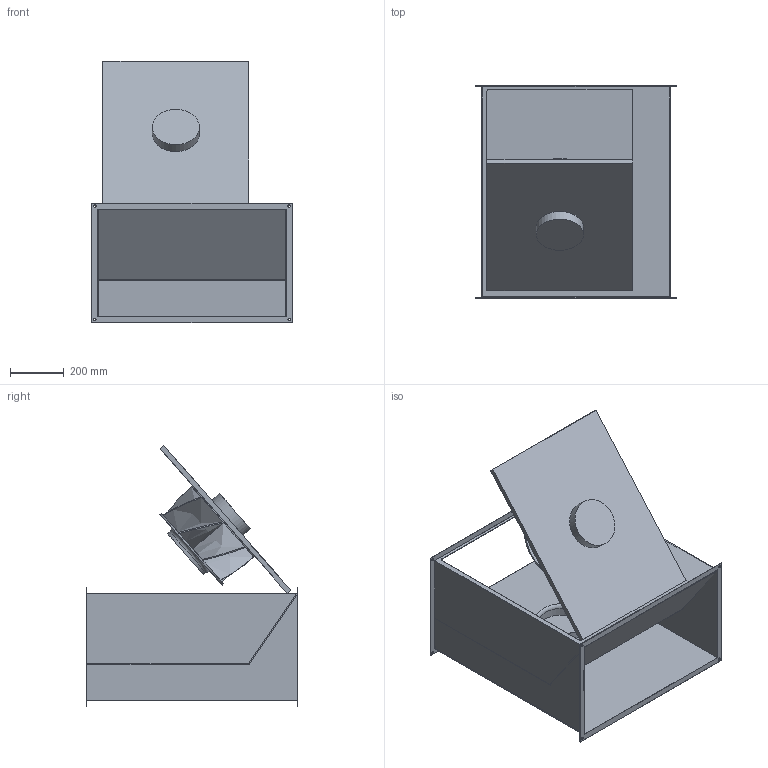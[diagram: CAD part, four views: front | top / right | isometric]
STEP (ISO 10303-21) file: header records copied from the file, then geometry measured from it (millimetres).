
FILE_DESCRIPTION(/* description */ (''),/* implementation_level */ '2;1');
FILE_NAME(/* name */ 'Z:\Output\KRW_450-4-70-40-06151-001.stp',/* time_stamp */ '2017-07-19T15:43:25+02:00',/* author */ ('Engineering1'),/* organization */ (''),/* preprocessor_version */ 'ST-DEVELOPER v16.5',/* originating_system */ 'Autodesk Inventor 2017',/* authorisation */ '');
FILE_SCHEMA (('AUTOMOTIVE_DESIGN { 1 0 10303 214 3 1 1 }'));
Length unit declared in the file: millimetre
Products named in the file (1): KR-1
Bounding box: 743 x 787 x 969.6 mm (x, y, z)
Volume: 14412429.2 mm3; surface area: 5776543.7 mm2
Topology: 1 solids, 1 shells, 130 faces, 336 edges, 199 vertices
Faces by surface type: plane 84, bspline 24, cylinder 19, torus 3
Full cylindrical faces by diameter (mm): 9 x8, 175 x3, 195 x1, 203 x1, 350 x2
Entity records: 4451 total; most frequent: CARTESIAN_POINT 1212, ORIENTED_EDGE 636, DIRECTION 595, EDGE_CURVE 316, LINE 203, VECTOR 203, VERTEX_POINT 197, AXIS2_PLACEMENT_3D 196
